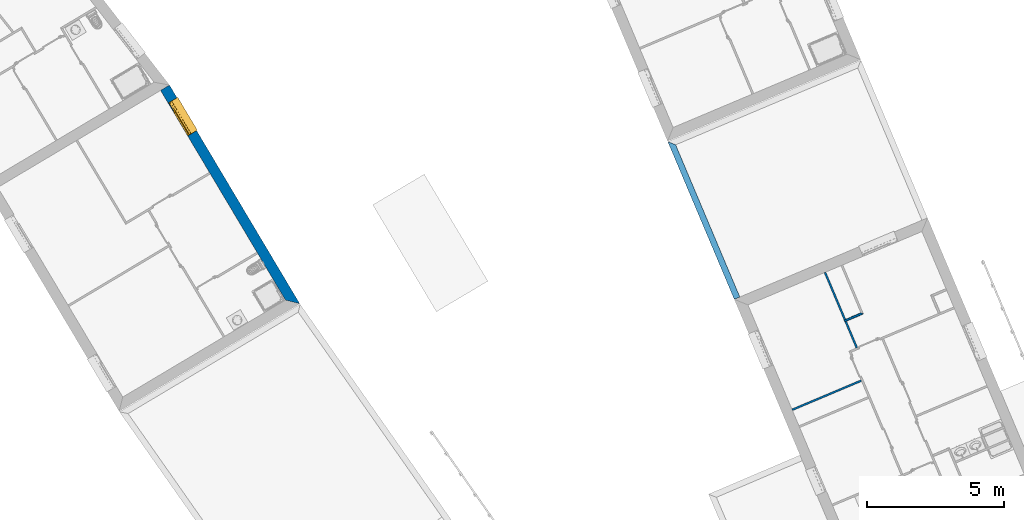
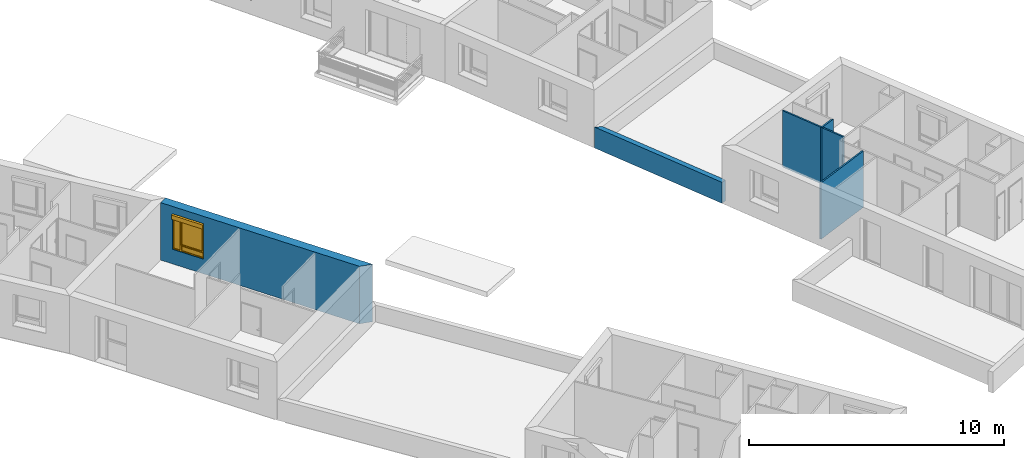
# One storey, part 46 of 121: 5 walls, 1 window, 1 opening.
"""IFC2X3 building model written with IfcOpenShell, lengths in metres."""

from ifc_helpers import new_model, entity, si_unit, converted_unit, derived_unit, money_unit, direction, frame, origin_with_axes, place, context, subcontext, project, spatial, polyline, outline, extrude, open_shell, faceted_brep, surface_model, source, transform, mapped, material, layer, layer_set, layer_usage, type_object, element, fill, save


model = new_model("IFC2X3")

# Units and contexts
model_context = context("Model", 3, precision=1e-05, world=origin_with_axes(), true_north=direction((0.0, 1.0)))
body_context = subcontext(model_context, "Body", "Model", "MODEL_VIEW")
ifc_project = project(units=[si_unit("LENGTHUNIT", "METRE"), si_unit("AREAUNIT", "SQUARE_METRE"), si_unit("VOLUMEUNIT", "CUBIC_METRE"), converted_unit("PLANEANGLEUNIT", "DEGREE", entity("IfcPlaneAngleMeasure", 0.0174532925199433), si_unit("PLANEANGLEUNIT", "RADIAN"), dimensions=[0, 0, 0, 0, 0, 0, 0]), money_unit("CHF"), converted_unit("TIMEUNIT", "Year", entity("IfcTimeMeasure", 31557600.0), si_unit("TIMEUNIT", "SECOND"), dimensions=[0, 0, 1, 0, 0, 0, 0]), si_unit("MASSUNIT", "GRAM", prefix="KILO"), si_unit("THERMODYNAMICTEMPERATUREUNIT", "DEGREE_CELSIUS"), si_unit("LUMINOUSINTENSITYUNIT", "LUMEN"), si_unit("ENERGYUNIT", "JOULE", prefix="MEGA"), derived_unit("THERMALCONDUCTANCEUNIT", [(si_unit("POWERUNIT", "WATT"), 1), (si_unit("LENGTHUNIT", "METRE"), -1), (si_unit("THERMODYNAMICTEMPERATUREUNIT", "KELVIN"), -1)]), derived_unit("SPECIFICHEATCAPACITYUNIT", [(si_unit("ENERGYUNIT", "JOULE"), 1), (si_unit("MASSUNIT", "GRAM", prefix="KILO"), -1), (si_unit("THERMODYNAMICTEMPERATUREUNIT", "KELVIN"), -1)]), derived_unit("MASSDENSITYUNIT", [(si_unit("MASSUNIT", "GRAM", prefix="KILO"), 1), (si_unit("VOLUMEUNIT", "CUBIC_METRE"), -1)])], contexts=[model_context])

# Site, building, storey
site_placement = place(None, origin_with_axes())
site = spatial("IfcSite", under=ifc_project, at=site_placement, Name="Site", CompositionType="ELEMENT")
building_placement = place(site_placement, origin_with_axes())
building = spatial("IfcBuilding", under=site, at=building_placement, Name="Bâtiment", CompositionType="ELEMENT")
storey_placement = place(building_placement, frame((0.0, 0.0, 2.75), z_axis=(0.0, 0.0, 1.0), x_axis=(1.0, 0.0, 0.0)))
storey = spatial("IfcBuildingStorey", under=building, at=storey_placement, Name="Etage 1", CompositionType="ELEMENT", Elevation=2.75)

# Walls
ifc_material_1 = material(Name="Hachure solide 268963992")
ifc_layer_1 = layer(ifc_material_1, 0.07, ventilated="UNKNOWN")
ifc_layer_set_1 = layer_set([ifc_layer_1], Name="Cloison 70 0826278243")
ifc_layer_usage_1 = layer_usage(ifc_layer_set_1, "AXIS2", "NEGATIVE", 0.0)
wall_type_1 = type_object("IfcWallType", Name="Cloison 70 0826278243 70", PredefinedType="NOTDEFINED")
wall_1_placement = place(storey_placement, frame((9570.44654346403, -1051.642568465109, 57.7), z_axis=(0.0, 0.0, 1.0), x_axis=(-0.9214205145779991, -0.3885668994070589, 0.0)))
element("IfcWallStandardCase", 1, at=wall_1_placement, inside=storey, type_object=wall_type_1, material=ifc_layer_usage_1, Name="Mur-149", context=body_context, shape_type="SweptSolid", body=[
    extrude(outline(polyline([(0.07000000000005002, -0.06999999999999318), (0.7400000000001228, -0.06999999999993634), (0.7400000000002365, 0.0), (0.0, 0.0), (0.07000000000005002, -0.06999999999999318)])), origin_with_axes(), (0.0, 0.0, 1.0), 2.7),
])
ifc_layer_usage_2 = layer_usage(ifc_layer_set_1, "AXIS2", "NEGATIVE", 0.0)
wall_2_placement = place(storey_placement, frame((9568.924835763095, -1049.758381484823, 57.7), z_axis=(0.0, 0.0, 1.0), x_axis=(0.3885668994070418, -0.9214205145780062, 0.0)))
element("IfcWallStandardCase", 2, at=wall_2_placement, inside=storey, type_object=wall_type_1, material=ifc_layer_usage_2, Name="Mur-149", context=body_context, shape_type="SweptSolid", body=[
    extrude(outline(polyline([(0.3800000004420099, -0.06999999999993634), (3.377260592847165, -0.06999999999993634), (3.377260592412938, 0.0), (0.3799999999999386, 0.0), (0.3800000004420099, -0.06999999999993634)])), origin_with_axes(), (0.0, 0.0, 1.0), 2.7),
])
ifc_layer_usage_3 = layer_usage(ifc_layer_set_1, "AXIS2", "NEGATIVE", 0.0)
wall_3_placement = place(storey_placement, frame((9570.447117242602, -1054.088810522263, 57.7), z_axis=(0.0, 0.0, 1.0), x_axis=(-0.921420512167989, -0.3885669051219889, 0.0)))
element("IfcWallStandardCase", 3, at=wall_3_placement, inside=storey, type_object=wall_type_1, material=ifc_layer_usage_3, Name="Mur-149", context=body_context, shape_type="SweptSolid", body=[
    extrude(outline(polyline([(0.06999999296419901, -0.06999999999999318), (2.816099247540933, -0.06999999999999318), (2.816099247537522, 0.0), (0.06999999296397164, 0.0), (0.06999999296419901, -0.06999999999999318)])), origin_with_axes(), (0.0, 0.0, 1.0), 2.7),
])

# Wall, opening, window
ifc_material_2 = material(Name="Parpaing 312445824")
ifc_layer_2 = layer(ifc_material_2, 0.22, ventilated="UNKNOWN")
ifc_material_3 = material(Name="Isolant styromousse 301821074")
ifc_layer_3 = layer(ifc_material_3, 0.16, ventilated="UNKNOWN")
ifc_layer_set_2 = layer_set([ifc_layer_2, ifc_layer_3], Name="isol int 22+16 0836643197")
ifc_layer_usage_4 = layer_usage(ifc_layer_set_2, "AXIS2", "NEGATIVE", 0.0)
wall_type_2 = type_object("IfcWallType", Name="isol int 22+16 0836643197 380", PredefinedType="NOTDEFINED")
wall_4_placement = place(storey_placement, frame((9545.054036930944, -1043.269736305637, 57.7), z_axis=(0.0, 0.0, 1.0), x_axis=(0.511829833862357, -0.8590868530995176, 0.0)))
wall_4 = element("IfcWallStandardCase", 4, at=wall_4_placement, inside=storey, type_object=wall_type_2, material=ifc_layer_usage_4, Name="Mur-113", context=body_context, shape_type="SweptSolid", body=[
    extrude(outline(polyline([(0.0, -0.3800000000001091), (8.931906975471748, -0.3799999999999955), (9.311906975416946, 0.0), (0.0, 0.0), (0.0, -0.3800000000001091)])), origin_with_axes(), (0.0, 0.0, 1.0), 2.75),
])
opening_placement = place(wall_4_placement, frame((1.237766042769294, 0.0, 0.7000000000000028), z_axis=(0.0, 0.0, 1.0), x_axis=(1.0, 0.0, 0.0)))
opening = element("IfcOpeningElement", 5, at=opening_placement, cuts=wall_4, Name="Fen-045", context=body_context, shape_type="Brep", body=[
    faceted_brep([(-0.6999999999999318, -0.2199999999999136, 1.5), (0.7000000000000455, -0.2199999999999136, 1.5), (0.7000000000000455, 4.095503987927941, 1.5), (-0.6999999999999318, 4.095503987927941, 1.5), (-0.6999999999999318, -0.2199999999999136, 1.700000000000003), (0.7000000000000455, -0.2199999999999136, 1.700000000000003), (0.7000000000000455, -0.2999999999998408, 1.5), (0.7000000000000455, -0.2999999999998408, 0.0), (0.7000000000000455, 4.095503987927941, 0.0), (-0.6999999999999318, 4.095503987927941, 0.0), (-0.6999999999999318, -0.2999999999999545, 1.5), (-0.6999999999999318, -0.2999999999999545, 0.0), (-0.6999999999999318, -0.4799999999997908, 1.5), (-0.6999999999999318, -0.4799999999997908, 1.700000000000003), (0.7000000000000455, -0.4800000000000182, 1.700000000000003), (0.7000000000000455, -0.4800000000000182, 1.5), (0.7000000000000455, -4.475503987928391, 1.5), (0.7000000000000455, -4.475503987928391, 0.0), (-0.6999999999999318, -4.475503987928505, 0.0), (-0.6999999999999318, -4.475503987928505, 1.5)], [[[0, 1, 2, 3]], [[1, 0, 4, 5]], [[1, 6, 7, 8, 2]], [[2, 8, 9, 3]], [[10, 0, 3, 9, 11]], [[0, 10, 12, 13, 4]], [[4, 13, 14, 5]], [[6, 1, 5, 14, 15]], [[6, 15, 16, 17, 7]], [[7, 11, 9, 8]], [[12, 10, 11, 18, 19]], [[12, 15, 14, 13]], [[15, 12, 19, 16]], [[19, 18, 17, 16]], [[11, 7, 17, 18]]]),
])
window_style = type_object("IfcWindowStyle", Name="Fenêtre variable 27", ConstructionType="NOTDEFINED", OperationType="TRIPLE_PANEL_RIGHT", ParameterTakesPrecedence=False, Sizeable=False)
shared_shape = source(origin_with_axes(), body_context, "Body", "SurfaceModel", [
    surface_model("IfcShellBasedSurfaceModel", [(-0.7, -0.05100000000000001, 0.05), (-0.7, -0.05100000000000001, 0.04), (0.7, -0.05100000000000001, 0.04000000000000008), (0.7, -0.05100000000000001, 0.05000000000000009), (-0.7, -0.3799999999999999, 0.02899999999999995), (0.7, -0.3799999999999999, 0.02900000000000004), (-0.7, -0.3799999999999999, 0.008999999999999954), (0.7, -0.3799999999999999, 0.00900000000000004), (-0.7, -0.3699999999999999, 0.01899999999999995), (0.7, -0.3699999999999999, 0.01900000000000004)], [open_shell([[[0, 1, 2, 3]], [[1, 4, 5, 2]], [[4, 6, 7, 5]], [[6, 8, 9, 7]]])]),
    faceted_brep([(-0.7, -0.13, 1.7), (-0.697, -0.13, 1.7), (-0.697, 0.13, 1.7), (-0.7, 0.13, 1.7), (-0.7, -0.13, 1.5), (-0.697, -0.13, 1.5), (-0.697, 0.13, 1.5), (-0.7, 0.13, 1.5)], [[[0, 1, 2, 3]], [[4, 5, 1, 0]], [[1, 5, 6, 2]], [[3, 2, 6, 7]], [[0, 3, 7, 4]], [[7, 6, 5, 4]]]),
    faceted_brep([(0.6970000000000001, -0.1299999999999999, 1.7), (0.7000000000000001, -0.1299999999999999, 1.7), (0.7000000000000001, 0.1300000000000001, 1.7), (0.6970000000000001, 0.1300000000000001, 1.7), (0.6970000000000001, -0.1299999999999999, 1.5), (0.7000000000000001, -0.1299999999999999, 1.5), (0.7000000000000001, 0.1300000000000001, 1.5), (0.6970000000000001, 0.1300000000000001, 1.5)], [[[0, 1, 2, 3]], [[4, 5, 1, 0]], [[1, 5, 6, 2]], [[3, 2, 6, 7]], [[0, 3, 7, 4]], [[7, 6, 5, 4]]]),
    faceted_brep([(-0.697, -0.13, 1.5), (0.697, -0.1299999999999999, 1.5), (0.697, -0.1299999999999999, 1.7), (-0.697, -0.13, 1.7), (-0.697, -0.127, 1.5), (0.697, -0.1269999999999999, 1.5), (0.697, -0.1269999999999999, 1.697), (0.697, 0.1270000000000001, 1.697), (0.697, 0.1270000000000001, 1.503), (0.697, -0.1079999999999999, 1.503), (0.697, -0.1079999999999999, 1.5), (0.697, 0.1300000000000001, 1.5), (0.697, 0.1300000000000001, 1.7), (-0.697, 0.13, 1.7), (-0.697, 0.13, 1.5), (-0.697, -0.108, 1.5), (-0.697, -0.108, 1.503), (-0.697, 0.127, 1.503), (-0.697, 0.127, 1.697), (-0.697, -0.127, 1.697)], [[[0, 1, 2, 3]], [[4, 5, 1, 0]], [[1, 5, 6, 7, 8, 9, 10, 11, 12, 2]], [[3, 2, 12, 13]], [[0, 3, 13, 14, 15, 16, 17, 18, 19, 4]], [[19, 6, 5, 4]], [[18, 7, 6, 19]], [[17, 8, 7, 18]], [[16, 9, 8, 17]], [[15, 10, 9, 16]], [[14, 11, 10, 15]], [[13, 12, 11, 14]]]),
    faceted_brep([(-0.694, -0.08075423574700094, 1.585760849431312), (-0.694, -0.08200000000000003, 1.6), (-0.694, -0.0807542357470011, 1.614239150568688), (-0.694, -0.07705479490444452, 1.628045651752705), (-0.694, -0.07101408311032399, 1.641), (-0.694, -0.06281564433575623, 1.652708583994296), (-0.694, -0.05270858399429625, 1.662815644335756), (-0.694, -0.04100000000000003, 1.671014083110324), (-0.694, -0.02804565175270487, 1.677054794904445), (-0.694, -0.01423915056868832, 1.680754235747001), (-0.694, 0.0, 1.682), (-0.694, 0.01423915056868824, 1.680754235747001), (-0.694, 0.02804565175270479, 1.677054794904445), (-0.694, 0.04099999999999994, 1.671014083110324), (-0.694, 0.05270858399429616, 1.662815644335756), (-0.694, 0.06281564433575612, 1.652708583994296), (-0.694, 0.07101408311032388, 1.641), (-0.694, 0.0770547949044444, 1.628045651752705), (-0.694, 0.08075423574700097, 1.614239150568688), (-0.694, 0.0819999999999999, 1.6), (-0.694, 0.08075423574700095, 1.585760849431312), (-0.694, 0.07705479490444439, 1.571954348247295), (-0.694, 0.07101408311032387, 1.559), (-0.694, 0.06281564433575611, 1.547291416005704), (-0.694, 0.05270858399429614, 1.537184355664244), (-0.694, 0.04099999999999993, 1.528985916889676), (-0.694, 0.02804565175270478, 1.522945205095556), (-0.694, 0.01423915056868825, 1.519245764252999), (-0.694, 0.0, 1.518), (-0.694, -0.01423915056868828, 1.519245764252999), (-0.694, -0.02804565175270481, 1.522945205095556), (-0.694, -0.04099999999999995, 1.528985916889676), (-0.694, -0.05270858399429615, 1.537184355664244), (-0.694, -0.06281564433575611, 1.547291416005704), (-0.694, -0.07101408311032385, 1.559), (-0.694, -0.07705479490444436, 1.571954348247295), (0.694, -0.08075423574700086, 1.585760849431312), (0.694, -0.08199999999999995, 1.6), (0.694, -0.08075423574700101, 1.614239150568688), (0.694, -0.07705479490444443, 1.628045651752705), (0.694, -0.07101408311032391, 1.641), (0.694, -0.06281564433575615, 1.652708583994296), (0.694, -0.05270858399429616, 1.662815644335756), (0.694, -0.04099999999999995, 1.671014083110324), (0.694, -0.02804565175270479, 1.677054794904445), (0.694, -0.01423915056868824, 1.680754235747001), (0.694, 0.0, 1.682), (0.694, 0.01423915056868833, 1.680754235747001), (0.694, 0.02804565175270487, 1.677054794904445), (0.694, 0.04100000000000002, 1.671014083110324), (0.694, 0.05270858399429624, 1.662815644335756), (0.694, 0.0628156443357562, 1.652708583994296), (0.694, 0.07101408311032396, 1.641), (0.694, 0.07705479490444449, 1.628045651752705), (0.694, 0.08075423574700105, 1.614239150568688), (0.694, 0.08199999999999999, 1.6), (0.694, 0.08075423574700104, 1.585760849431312), (0.694, 0.07705479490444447, 1.571954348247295), (0.694, 0.07101408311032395, 1.559), (0.694, 0.06281564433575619, 1.547291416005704), (0.694, 0.05270858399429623, 1.537184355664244), (0.694, 0.04100000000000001, 1.528985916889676), (0.694, 0.02804565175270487, 1.522945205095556), (0.694, 0.01423915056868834, 1.519245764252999), (0.694, 0.0, 1.518), (0.694, -0.0142391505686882, 1.519245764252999), (0.694, -0.02804565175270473, 1.522945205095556), (0.694, -0.04099999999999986, 1.528985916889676), (0.694, -0.05270858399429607, 1.537184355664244), (0.694, -0.06281564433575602, 1.547291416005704), (0.694, -0.07101408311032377, 1.559), (0.694, -0.07705479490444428, 1.571954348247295)], [[[0, 1, 2, 3, 4, 5, 6, 7, 8, 9, 10, 11, 12, 13, 14, 15, 16, 17, 18, 19, 20, 21, 22, 23, 24, 25, 26, 27, 28, 29, 30, 31, 32, 33, 34, 35]], [[0, 36, 37, 1]], [[1, 37, 38, 2]], [[2, 38, 39, 3]], [[3, 39, 40, 4]], [[4, 40, 41, 5]], [[5, 41, 42, 6]], [[6, 42, 43, 7]], [[7, 43, 44, 8]], [[8, 44, 45, 9]], [[9, 45, 46, 10]], [[10, 46, 47, 11]], [[11, 47, 48, 12]], [[12, 48, 49, 13]], [[13, 49, 50, 14]], [[14, 50, 51, 15]], [[15, 51, 52, 16]], [[16, 52, 53, 17]], [[17, 53, 54, 18]], [[18, 54, 55, 19]], [[19, 55, 56, 20]], [[20, 56, 57, 21]], [[21, 57, 58, 22]], [[22, 58, 59, 23]], [[23, 59, 60, 24]], [[24, 60, 61, 25]], [[25, 61, 62, 26]], [[26, 62, 63, 27]], [[27, 63, 64, 28]], [[28, 64, 65, 29]], [[29, 65, 66, 30]], [[30, 66, 67, 31]], [[31, 67, 68, 32]], [[32, 68, 69, 33]], [[33, 69, 70, 34]], [[34, 70, 71, 35]], [[35, 71, 36, 0]], [[36, 71, 70, 69, 68, 67, 66, 65, 64, 63, 62, 61, 60, 59, 58, 57, 56, 55, 54, 53, 52, 51, 50, 49, 48, 47, 46, 45, 44, 43, 42, 41, 40, 39, 38, 37]]]),
    faceted_brep([(0.7, -0.105, 0.03), (0.7, -0.1049999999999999, 1.5), (0.7, -0.1299999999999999, 1.5), (0.7, -0.13, 0.03), (0.6749999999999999, -0.105, 0.03), (0.6749999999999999, -0.1049999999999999, 1.5), (0.6749999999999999, -0.1079999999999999, 1.5), (0.697, -0.1079999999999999, 1.5), (0.697, -0.1269999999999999, 1.5), (0.6749999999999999, -0.1269999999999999, 1.5), (0.6749999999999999, -0.1299999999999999, 1.5), (0.6749999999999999, -0.13, 0.03), (0.6749999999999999, -0.127, 0.03), (0.697, -0.127, 0.03), (0.697, -0.108, 0.03), (0.6749999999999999, -0.108, 0.03)], [[[0, 1, 2, 3]], [[4, 5, 1, 0]], [[1, 5, 6, 7, 8, 9, 10, 2]], [[3, 2, 10, 11]], [[0, 3, 11, 12, 13, 14, 15, 4]], [[15, 6, 5, 4]], [[14, 7, 6, 15]], [[13, 8, 7, 14]], [[12, 9, 8, 13]], [[11, 10, 9, 12]]]),
    faceted_brep([(-0.7, -0.105, 0.03), (-0.7, -0.13, 0.03), (-0.7, -0.1299999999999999, 1.5), (-0.7, -0.1049999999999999, 1.5), (-0.6749999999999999, -0.105, 0.03), (-0.6749999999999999, -0.108, 0.03), (-0.697, -0.108, 0.03), (-0.697, -0.127, 0.03), (-0.6749999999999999, -0.127, 0.03), (-0.6749999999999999, -0.13, 0.03), (-0.6749999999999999, -0.1299999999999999, 1.5), (-0.6749999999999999, -0.1269999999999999, 1.5), (-0.697, -0.1269999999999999, 1.5), (-0.697, -0.1079999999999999, 1.5), (-0.6749999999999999, -0.1079999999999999, 1.5), (-0.6749999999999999, -0.1049999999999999, 1.5)], [[[0, 1, 2, 3]], [[0, 4, 5, 6, 7, 8, 9, 1]], [[1, 9, 10, 2]], [[3, 2, 10, 11, 12, 13, 14, 15]], [[4, 0, 3, 15]], [[5, 4, 15, 14]], [[6, 5, 14, 13]], [[7, 6, 13, 12]], [[8, 7, 12, 11]], [[9, 8, 11, 10]]]),
    surface_model("IfcShellBasedSurfaceModel", [(-0.697, -0.115, 1.6), (0.697, -0.1149999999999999, 1.6), (0.697, -0.1199999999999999, 1.6), (-0.697, -0.12, 1.6), (-0.697, -0.115, 1.6), (-0.697, -0.12, 1.6), (0.697, -0.12, 1.6), (0.697, -0.1149999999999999, 1.6)], [open_shell([[[0, 1, 2, 3]], [[4, 5, 6, 7]]])]),
    faceted_brep([(-0.697, -0.115, 1.6), (0.697, -0.1149999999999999, 1.6), (0.697, -0.1166666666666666, 1.583333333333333), (-0.697, -0.1166666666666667, 1.583333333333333), (-0.697, -0.12, 1.6), (0.697, -0.1199999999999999, 1.6), (0.697, -0.1216666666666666, 1.583333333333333), (0.697, -0.1216666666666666, 1.566666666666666), (0.697, -0.1199999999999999, 1.55), (0.697, -0.1149999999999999, 1.55), (0.697, -0.1166666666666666, 1.566666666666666), (-0.697, -0.1166666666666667, 1.566666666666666), (-0.697, -0.115, 1.55), (-0.697, -0.12, 1.55), (-0.697, -0.1216666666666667, 1.566666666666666), (-0.697, -0.1216666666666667, 1.583333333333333)], [[[0, 1, 2, 3]], [[4, 5, 1, 0]], [[1, 5, 6, 7, 8, 9, 10, 2]], [[3, 2, 10, 11]], [[0, 3, 11, 12, 13, 14, 15, 4]], [[15, 6, 5, 4]], [[14, 7, 6, 15]], [[13, 8, 7, 14]], [[12, 9, 8, 13]], [[11, 10, 9, 12]]]),
    faceted_brep([(-0.697, -0.115, 1.55), (0.697, -0.1149999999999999, 1.55), (0.697, -0.1166666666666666, 1.533333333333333), (-0.697, -0.1166666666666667, 1.533333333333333), (-0.697, -0.12, 1.55), (0.697, -0.1199999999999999, 1.55), (0.697, -0.1216666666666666, 1.533333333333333), (0.697, -0.1216666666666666, 1.516666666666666), (0.697, -0.1199999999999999, 1.5), (0.697, -0.1149999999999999, 1.5), (0.697, -0.1166666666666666, 1.516666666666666), (-0.697, -0.1166666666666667, 1.516666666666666), (-0.697, -0.115, 1.5), (-0.697, -0.12, 1.5), (-0.697, -0.1216666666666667, 1.516666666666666), (-0.697, -0.1216666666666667, 1.533333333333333)], [[[0, 1, 2, 3]], [[4, 5, 1, 0]], [[1, 5, 6, 7, 8, 9, 10, 2]], [[3, 2, 10, 11]], [[0, 3, 11, 12, 13, 14, 15, 4]], [[15, 6, 5, 4]], [[14, 7, 6, 15]], [[13, 8, 7, 14]], [[12, 9, 8, 13]], [[11, 10, 9, 12]]]),
    faceted_brep([(-0.6749999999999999, 0.0, 1.45), (-0.7, 0.0, 1.45), (-0.7, -0.05000000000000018, 1.45), (-0.6499999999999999, -0.05000000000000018, 1.45), (-0.6499999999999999, -0.02500000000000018, 1.45), (-0.6749999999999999, -0.02500000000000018, 1.45), (-0.6749999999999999, 0.0, 0.3099999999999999), (-0.6499999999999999, 0.0, 0.3099999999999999), (-0.6499999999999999, 0.0, 0.265), (-0.6499999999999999, 0.0, 0.05000000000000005), (-0.7, 0.0, 0.05000000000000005), (-0.7, -0.05000000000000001, 0.05000000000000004), (-0.6499999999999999, -0.05000000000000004, 0.335), (-0.6499999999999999, -0.05000000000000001, 0.05000000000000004), (-0.6499999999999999, -0.05000000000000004, 0.265), (-0.6499999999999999, -0.02500000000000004, 0.335), (-0.6499999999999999, -0.02500000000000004, 0.3099999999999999), (-0.6749999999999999, -0.02500000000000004, 0.3099999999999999)], [[[0, 1, 2, 3, 4, 5]], [[6, 7, 8, 9, 10, 1, 0]], [[1, 10, 11, 2]], [[12, 3, 2, 11, 13, 14]], [[4, 3, 12, 15]], [[15, 16, 17, 5, 4]], [[5, 17, 6, 0]], [[6, 17, 16, 7]], [[16, 15, 12, 14, 8, 7]], [[9, 8, 14, 13]], [[10, 9, 13, 11]]]),
    faceted_brep([(0.3068894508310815, -0.02500000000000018, 1.45), (0.3068894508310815, -0.05000000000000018, 1.45), (0.3768894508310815, -0.05000000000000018, 1.45), (0.3768894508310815, 0.0, 1.45), (0.3318894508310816, 0.0, 1.45), (0.3318894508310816, -0.02500000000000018, 1.45), (0.3068894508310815, -0.02500000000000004, 0.335), (0.3068894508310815, -0.05000000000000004, 0.335), (0.3068894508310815, -0.05000000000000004, 0.265), (0.3068894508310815, -0.05000000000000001, 0.05000000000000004), (0.3768894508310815, -0.05000000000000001, 0.05000000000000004), (0.3768894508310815, 0.0, 0.05000000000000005), (0.3318894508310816, 0.0, 0.3099999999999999), (0.3068894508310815, 0.0, 0.05000000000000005), (0.3068894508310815, 0.0, 0.265), (0.3068894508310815, 0.0, 0.3099999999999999), (0.3318894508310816, -0.02500000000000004, 0.3099999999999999), (0.3068894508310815, -0.02500000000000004, 0.3099999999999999)], [[[0, 1, 2, 3, 4, 5]], [[6, 7, 1, 0]], [[8, 9, 10, 2, 1, 7]], [[11, 3, 2, 10]], [[12, 4, 3, 11, 13, 14, 15]], [[12, 16, 5, 4]], [[5, 16, 17, 6, 0]], [[17, 15, 14, 8, 7, 6]], [[14, 13, 9, 8]], [[13, 11, 10, 9]], [[15, 17, 16, 12]]]),
    faceted_brep([(-0.6499999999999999, -0.02500000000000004, 0.335), (-0.6499999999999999, -0.05000000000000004, 0.335), (0.3068894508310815, -0.05000000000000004, 0.335), (0.3068894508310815, -0.02500000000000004, 0.335), (-0.6499999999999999, -0.02500000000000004, 0.3099999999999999), (-0.6499999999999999, 0.0, 0.3099999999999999), (-0.6499999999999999, 0.0, 0.265), (-0.6499999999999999, -0.05000000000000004, 0.265), (0.3068894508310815, -0.05000000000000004, 0.265), (0.3068894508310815, -0.02500000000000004, 0.3099999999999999), (0.3068894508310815, 0.0, 0.265), (0.3068894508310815, 0.0, 0.3099999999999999)], [[[0, 1, 2, 3]], [[4, 5, 6, 7, 1, 0]], [[2, 1, 7, 8]], [[9, 3, 2, 8, 10, 11]], [[9, 4, 0, 3]], [[5, 4, 9, 11]], [[11, 10, 6, 5]], [[6, 10, 8, 7]]]),
    faceted_brep([(-0.6749999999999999, 0.0, 1.45), (-0.7, 0.0, 1.45), (-0.7, 0.0, 1.5), (0.7, 0.0, 1.5), (0.7, 0.0, 1.45), (0.6499999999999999, 0.0, 1.45), (0.3768894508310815, 0.0, 1.45), (0.3318894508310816, 0.0, 1.45), (0.3318894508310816, 0.0, 1.475), (-0.6749999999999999, 0.0, 1.475), (-0.6749999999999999, -0.02500000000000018, 1.45), (-0.6499999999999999, -0.02500000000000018, 1.45), (-0.6499999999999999, -0.05000000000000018, 1.45), (-0.7, -0.05000000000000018, 1.45), (-0.7, -0.05000000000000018, 1.5), (0.7, -0.05000000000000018, 1.5), (0.7, -0.05000000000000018, 1.45), (0.6499999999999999, -0.05000000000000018, 1.45), (0.3768894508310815, -0.05000000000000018, 1.45), (0.3318894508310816, -0.02500000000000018, 1.45), (0.3068894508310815, -0.05000000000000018, 1.45), (0.3068894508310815, -0.02500000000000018, 1.45), (0.3318894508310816, -0.02500000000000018, 1.475), (-0.6749999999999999, -0.02500000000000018, 1.475)], [[[0, 1, 2, 3, 4, 5, 6, 7, 8, 9]], [[10, 11, 12, 13, 1, 0]], [[2, 1, 13, 14]], [[3, 2, 14, 15]], [[4, 3, 15, 16]], [[5, 4, 16, 17]], [[6, 5, 17, 18]], [[19, 7, 6, 18, 20, 21]], [[7, 19, 22, 8]], [[8, 22, 23, 9]], [[9, 23, 10, 0]], [[21, 11, 10, 23, 22, 19]], [[21, 20, 12, 11]], [[18, 17, 16, 15, 14, 13, 12, 20]]]),
    faceted_brep([(0.6499999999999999, -0.05000000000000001, 0.05), (0.6499999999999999, 0.0, 0.05000000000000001), (0.7, 0.0, 0.05000000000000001), (0.7, -0.05000000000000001, 0.05), (0.6499999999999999, -0.05000000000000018, 1.45), (0.6499999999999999, 0.0, 1.45), (0.7, 0.0, 1.45), (0.7, -0.05000000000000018, 1.45)], [[[0, 1, 2, 3]], [[4, 5, 1, 0]], [[1, 5, 6, 2]], [[3, 2, 6, 7]], [[0, 3, 7, 4]], [[7, 6, 5, 4]]]),
    faceted_brep([(-0.6499999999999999, -0.05000000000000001, 0.05), (-0.6499999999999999, 0.0, 0.05000000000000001), (-0.7, 0.0, 0.05000000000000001), (-0.7, -0.05000000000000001, 0.05), (0.3068894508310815, -0.05000000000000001, 0.05), (0.3068894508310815, 0.0, 0.05000000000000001), (0.3768894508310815, 0.0, 0.05000000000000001), (0.6499999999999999, 0.0, 0.05000000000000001), (0.7, 0.0, 0.05000000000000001), (0.7, 0.0, 0.0), (-0.7, 0.0, 0.0), (-0.7, -0.05, 0.0), (0.7, -0.05, 0.0), (0.7, -0.05000000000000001, 0.05), (0.6499999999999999, -0.05000000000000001, 0.05), (0.3768894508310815, -0.05000000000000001, 0.05)], [[[0, 1, 2, 3]], [[4, 5, 1, 0]], [[1, 5, 6, 7, 8, 9, 10, 2]], [[3, 2, 10, 11]], [[0, 3, 11, 12, 13, 14, 15, 4]], [[15, 6, 5, 4]], [[14, 7, 6, 15]], [[13, 8, 7, 14]], [[12, 9, 8, 13]], [[11, 10, 9, 12]]]),
    faceted_brep([(-0.625, -0.02500000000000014, 1.425), (-0.625, 0.02499999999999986, 1.425), (-0.6749999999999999, 0.02499999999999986, 1.425), (-0.6749999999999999, -0.02500000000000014, 1.425), (-0.625, -0.02500000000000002, 0.3599999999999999), (-0.625, 0.02499999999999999, 0.3599999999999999), (-0.6749999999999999, 0.02499999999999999, 0.3599999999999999), (-0.6749999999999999, -0.02500000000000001, 0.3599999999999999)], [[[0, 1, 2, 3]], [[4, 5, 1, 0]], [[1, 5, 6, 2]], [[3, 2, 6, 7]], [[0, 3, 7, 4]], [[7, 6, 5, 4]]]),
    faceted_brep([(0.2818894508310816, -0.02500000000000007, 0.3599999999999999), (0.2818894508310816, 0.02499999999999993, 0.3599999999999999), (0.3318894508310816, 0.02499999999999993, 0.3599999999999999), (0.3318894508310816, -0.02500000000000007, 0.3599999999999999), (0.2818894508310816, -0.0250000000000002, 1.425), (0.2818894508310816, 0.0249999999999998, 1.425), (0.3318894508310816, 0.0249999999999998, 1.425), (0.3318894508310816, -0.0250000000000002, 1.425)], [[[0, 1, 2, 3]], [[4, 5, 1, 0]], [[1, 5, 6, 2]], [[3, 2, 6, 7]], [[0, 3, 7, 4]], [[7, 6, 5, 4]]]),
    faceted_brep([(0.3318894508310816, -0.02500000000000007, 0.3099999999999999), (0.3318894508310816, 0.02499999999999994, 0.3099999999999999), (0.3318894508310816, 0.02499999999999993, 0.3599999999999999), (0.3318894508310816, -0.02500000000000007, 0.3599999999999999), (-0.6749999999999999, -0.025, 0.3099999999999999), (-0.6749999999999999, 0.02499999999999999, 0.3099999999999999), (-0.6749999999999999, 0.02499999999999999, 0.3599999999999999), (-0.625, 0.02499999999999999, 0.3599999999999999), (0.2818894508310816, 0.02499999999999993, 0.3599999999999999), (0.2818894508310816, -0.02500000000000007, 0.3599999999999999), (-0.625, -0.02500000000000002, 0.3599999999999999), (-0.6749999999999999, -0.02500000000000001, 0.3599999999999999)], [[[0, 1, 2, 3]], [[4, 5, 1, 0]], [[1, 5, 6, 7, 8, 2]], [[3, 2, 8, 9]], [[0, 3, 9, 10, 11, 4]], [[11, 6, 5, 4]], [[10, 7, 6, 11]], [[9, 8, 7, 10]]]),
    faceted_brep([(-0.6749999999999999, -0.02500000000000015, 1.475), (-0.6749999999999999, 0.02499999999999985, 1.475), (-0.6749999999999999, 0.02499999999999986, 1.425), (-0.6749999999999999, -0.02500000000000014, 1.425), (0.3318894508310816, -0.02500000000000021, 1.475), (0.3318894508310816, 0.02499999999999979, 1.475), (0.3318894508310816, 0.0249999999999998, 1.425), (0.2818894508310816, 0.0249999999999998, 1.425), (-0.625, 0.02499999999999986, 1.425), (-0.625, -0.02500000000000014, 1.425), (0.2818894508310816, -0.0250000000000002, 1.425), (0.3318894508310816, -0.0250000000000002, 1.425)], [[[0, 1, 2, 3]], [[4, 5, 1, 0]], [[1, 5, 6, 7, 8, 2]], [[3, 2, 8, 9]], [[0, 3, 9, 10, 11, 4]], [[11, 6, 5, 4]], [[10, 7, 6, 11]], [[9, 8, 7, 10]]]),
    surface_model("IfcShellBasedSurfaceModel", [(-0.625, -0.01000000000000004, 0.3599999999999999), (0.2818894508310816, -0.01000000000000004, 0.3599999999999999), (0.2818894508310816, -0.01000000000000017, 1.425), (-0.625, -0.01000000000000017, 1.425)], [open_shell([[[0, 1, 2, 3]]])]),
    surface_model("IfcShellBasedSurfaceModel", [(-0.625, 0.009999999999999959, 0.3599999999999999), (-0.625, 0.00999999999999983, 1.425), (0.2818894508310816, 0.00999999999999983, 1.425), (0.2818894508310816, 0.009999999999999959, 0.3599999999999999)], [open_shell([[[0, 1, 2, 3]]])]),
    surface_model("IfcShellBasedSurfaceModel", [(0.3768894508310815, -0.035, 0.05), (0.65, -0.035, 0.05), (0.65, -0.03500000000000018, 1.45), (0.3768894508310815, -0.03500000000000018, 1.45)], [open_shell([[[0, 1, 2, 3]]])]),
    surface_model("IfcShellBasedSurfaceModel", [(0.3768894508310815, -0.015, 0.05), (0.3768894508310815, -0.01500000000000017, 1.45), (0.65, -0.01500000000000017, 1.45), (0.65, -0.015, 0.05)], [open_shell([[[0, 1, 2, 3]]])]),
    surface_model("IfcShellBasedSurfaceModel", [(-0.6499999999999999, -0.035, 0.05), (0.3068894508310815, -0.035, 0.05), (0.3068894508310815, -0.03500000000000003, 0.265), (-0.6499999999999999, -0.03500000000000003, 0.265)], [open_shell([[[0, 1, 2, 3]]])]),
    surface_model("IfcShellBasedSurfaceModel", [(-0.6499999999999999, -0.015, 0.05), (-0.6499999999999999, -0.01500000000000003, 0.265), (0.3068894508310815, -0.01500000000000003, 0.265), (0.3068894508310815, -0.015, 0.05)], [open_shell([[[0, 1, 2, 3]]])]),
])
window_placement = place(opening_placement, frame((0.6999999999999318, 0.0, 0.0), z_axis=(0.0, 0.0, 1.0), x_axis=(-1.0, 0.0, 0.0)))
window = element("IfcWindow", 6, at=window_placement, inside=storey, type_object=window_style, Name="Fen-045", OverallHeight=1.5, OverallWidth=1.4, context=body_context, shape_type="MappedRepresentation", body=[
    mapped(shared_shape, transform((0.7000000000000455, 0.3500000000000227, 0.0))),
])
fill(opening, window)

# Wall
ifc_material_4 = material(Name="Empty Fill 3000033799")
ifc_layer_4 = layer(ifc_material_4, 0.22, ventilated="UNKNOWN")
ifc_layer_set_3 = layer_set([ifc_layer_4], Name="acrotère 22")
ifc_layer_usage_5 = layer_usage(ifc_layer_set_3, "AXIS2", "POSITIVE", 0.0)
wall_type_3 = type_object("IfcWallType", Name="acrotère 22 220", PredefinedType="NOTDEFINED")
wall_5_placement = place(storey_placement, frame((9563.28800184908, -1045.33753376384, 57.7), z_axis=(0.0, 0.0, 1.0), x_axis=(0.3885669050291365, -0.9214205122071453, 0.0)))
element("IfcWallStandardCase", 7, at=wall_5_placement, inside=storey, type_object=wall_type_3, material=ifc_layer_usage_5, Name="Mur-108", context=body_context, shape_type="SweptSolid", body=[
    extrude(outline(polyline([(0.0, 0.0), (6.263746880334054, 0.0), (6.263746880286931, 0.220000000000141), (0.2199999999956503, 0.220000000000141), (0.0, 0.0)])), origin_with_axes(), (0.0, 0.0, 1.0), 1.0),
])

save(model, "model.ifc")
